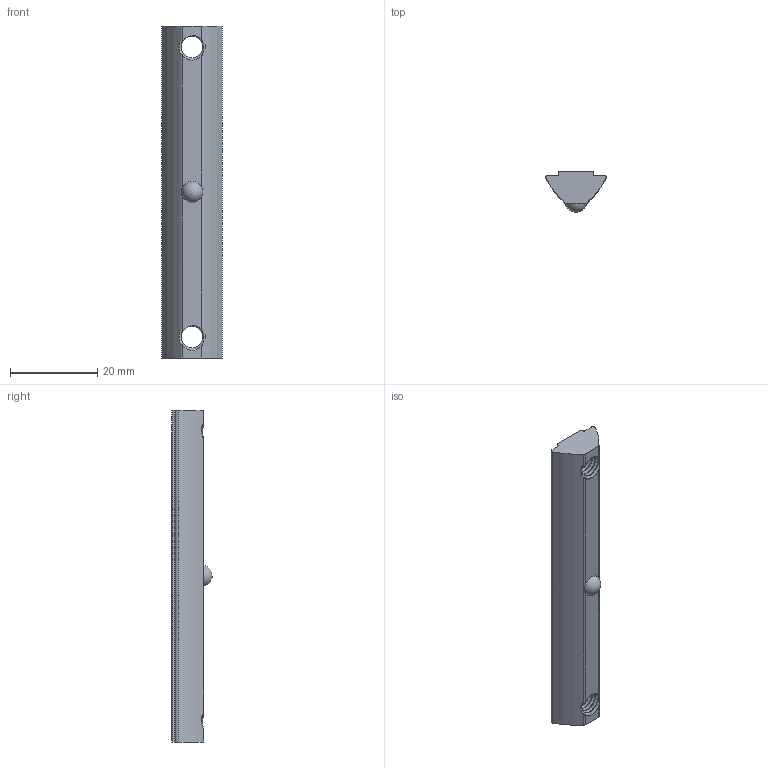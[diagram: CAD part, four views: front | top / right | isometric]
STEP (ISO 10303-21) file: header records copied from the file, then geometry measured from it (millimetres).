
FILE_DESCRIPTION (( 'STEP AP203' ), '1' );
FILE_NAME ('355057_Nutenstein 8 2xM6 L=76mm einschwenkbar mit Kugel und Steg.step', '2022-04-07T12:34:11', ( '' ), ( '' ), 'SwSTEP 2.0', 'SolidWorks 2021', '' );
FILE_SCHEMA (( 'CONFIG_CONTROL_DESIGN' ));
Length unit declared in the file: millimetre
Products named in the file (1): 355057_Nutenstein 8 2xM6 L=76mm einschwenkbar mit Kugel und Steg
Bounding box: 13.8 x 9.2 x 76 mm (x, y, z)
Volume: 5179.5 mm3; surface area: 3152.8 mm2
Topology: 1 solids, 1 shells, 75 faces, 228 edges, 152 vertices
Faces by surface type: cylinder 45, plane 13, bspline 10, cone 6, sphere 1
Entity records: 8884 total; most frequent: CARTESIAN_POINT 7047, ORIENTED_EDGE 450, DIRECTION 275, EDGE_CURVE 225, VERTEX_POINT 150, AXIS2_PLACEMENT_3D 100, B_SPLINE_CURVE_WITH_KNOTS 78, EDGE_LOOP 77
